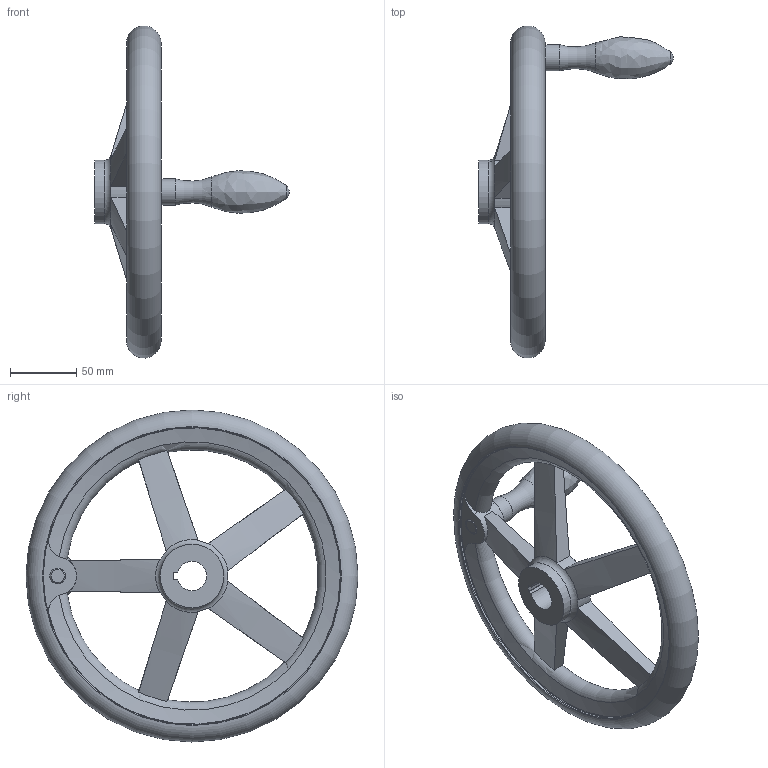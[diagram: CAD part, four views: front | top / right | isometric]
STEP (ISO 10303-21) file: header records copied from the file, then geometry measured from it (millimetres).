
FILE_DESCRIPTION( ( 'STEP AP203' ), '1' );
FILE_NAME( 'C:/Temp/Ganter_Step_05_03_2020/data/1_3/din_950/din_950_k/din_950_k_f/Handwheel DIN 950-AL-250-K22-F.stp', '2020-03-05T10:31:21', ( 'License CC BY-ND 4.0' ), ( 'CADENAS' ), ' ', 'PARTsolutions', ' ' );
FILE_SCHEMA( ( 'CONFIG_CONTROL_DESIGN' ) );
Length unit declared in the file: millimetre
Products named in the file (1): _Handwheel DIN 950-AL-250-K22-F
Bounding box: 146.5 x 249.94 x 249.94 mm (x, y, z)
Volume: 559996.2 mm3; surface area: 102058.4 mm2
Topology: 1 solids, 1 shells, 61 faces, 179 edges, 116 vertices
Faces by surface type: cylinder 19, plane 18, torus 13, cone 9, sphere 1, bspline 1
Full cylindrical faces by diameter (mm): 12 x1, 19.8 x1, 48 x2, 224 x2
Entity records: 2449 total; most frequent: CARTESIAN_POINT 952, ORIENTED_EDGE 306, DIRECTION 276, EDGE_CURVE 153, AXIS2_PLACEMENT_3D 124, VERTEX_POINT 110, EDGE_LOOP 87, FACE_OUTER_BOUND 76
